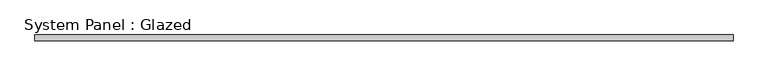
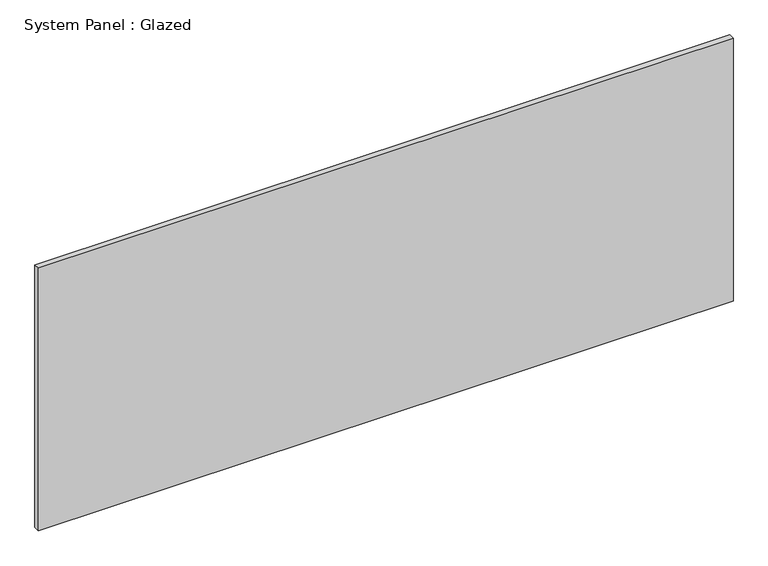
"""IFC4 building model written with IfcOpenShell, lengths in millimetres: plate geometry, System Panel : Glazed."""

from ifc_helpers import new_model, si_unit, origin, origin_with_axes, place, context, project, spatial, polyline, outline, extrude, source, transform, mapped, element, save


def system_panel_glazed_4df6a082(model_context):
    return source(origin(), model_context, "Body", "SweptSolid", [
        extrude(outline(polyline([(1500.0, 24.5), (-1500.0, 24.5), (-1500.0, 49.5), (1500.0, 49.5), (1500.0, 24.5)])), origin_with_axes(), (0.0, 0.0, 1.0), 1200.0),
    ])


if __name__ == "__main__":
    model = new_model("IFC4")
    model_context = context("Model", 3, world=origin())
    ifc_project = project(units=[si_unit("LENGTHUNIT", "METRE", prefix="MILLI")], contexts=[model_context])
    site = spatial("IfcSite", under=ifc_project)
    building = spatial("IfcBuilding", under=site)
    placement = place(None, origin())
    system_panel_glazed_shape = system_panel_glazed_4df6a082(model_context)
    element("IfcPlate", 1, ObjectType="System Panel : Glazed", at=placement, inside=building, context=model_context, shape_type="MappedRepresentation", body=[
        mapped(system_panel_glazed_shape, transform((0.0, 0.0, 0.0), x_axis=(1.0, 0.0, 0.0), y_axis=(0.0, 1.0, 0.0), z_axis=(0.0, 0.0, 1.0))),
    ])
    save(model, "model.ifc")
